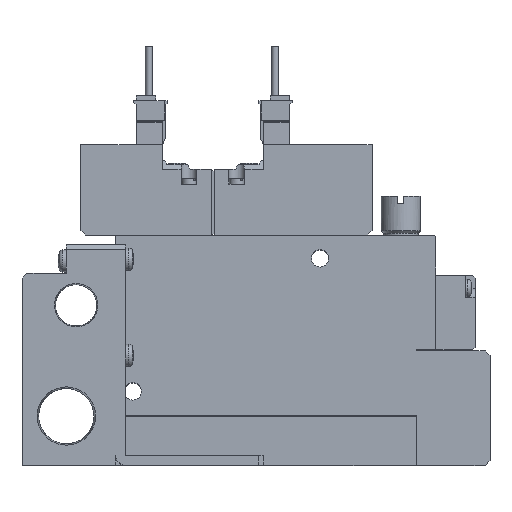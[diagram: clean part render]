
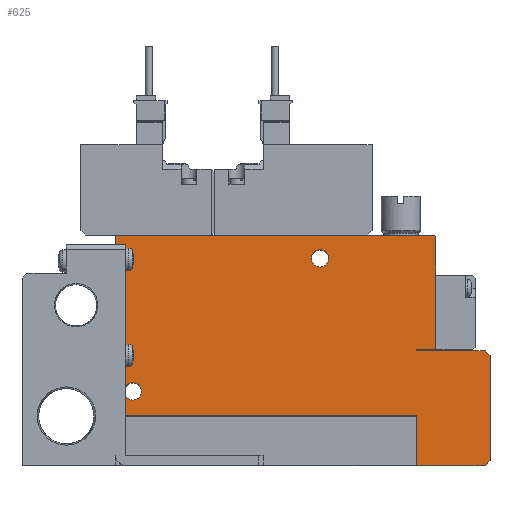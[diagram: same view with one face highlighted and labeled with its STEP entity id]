
A CAD part, top view. The second image highlights one B-rep face of the part: STEP entity #625.
In plain terms, the highlighted planar face has unit normal (0, 0, 1).
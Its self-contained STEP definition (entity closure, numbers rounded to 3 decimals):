
#625=ADVANCED_FACE('',(#1398,#1399,#1400),#1401,.F.);
#1398=FACE_OUTER_BOUND('',#2477,.T.);
#1399=FACE_BOUND('',#2478,.T.);
#1400=FACE_BOUND('',#2479,.T.);
#1401=PLANE('',#2480);
#2477=EDGE_LOOP('',(#5148,#5149,#5150,#5151,#5152,#5153,#5154,#5155,#5156,#5157,#5158,#5159,#5160,#5161));
#2478=EDGE_LOOP('',(#5162));
#2479=EDGE_LOOP('',(#5163));
#2480=AXIS2_PLACEMENT_3D('',#5164,#5165,#5166);
#5148=ORIENTED_EDGE('',*,*,#7374,.T.);
#5149=ORIENTED_EDGE('',*,*,#7375,.F.);
#5150=ORIENTED_EDGE('',*,*,#7376,.F.);
#5151=ORIENTED_EDGE('',*,*,#7377,.T.);
#5152=ORIENTED_EDGE('',*,*,#7378,.T.);
#5153=ORIENTED_EDGE('',*,*,#7379,.T.);
#5154=ORIENTED_EDGE('',*,*,#7380,.T.);
#5155=ORIENTED_EDGE('',*,*,#7381,.T.);
#5156=ORIENTED_EDGE('',*,*,#7382,.T.);
#5157=ORIENTED_EDGE('',*,*,#7383,.T.);
#5158=ORIENTED_EDGE('',*,*,#7384,.T.);
#5159=ORIENTED_EDGE('',*,*,#7385,.T.);
#5160=ORIENTED_EDGE('',*,*,#7386,.T.);
#5161=ORIENTED_EDGE('',*,*,#7387,.T.);
#5162=ORIENTED_EDGE('',*,*,#7388,.F.);
#5163=ORIENTED_EDGE('',*,*,#7389,.F.);
#5164=CARTESIAN_POINT('',(0.0,0.0,5.0));
#5165=DIRECTION('',(0.0,0.0,-1.0));
#5166=DIRECTION('',(0.0,-1.0,0.0));
#7374=EDGE_CURVE('',#8990,#8991,#8992,.T.);
#7375=EDGE_CURVE('',#8993,#8991,#8994,.T.);
#7376=EDGE_CURVE('',#8995,#8993,#8996,.T.);
#7377=EDGE_CURVE('',#8995,#8997,#8998,.T.);
#7378=EDGE_CURVE('',#8997,#8999,#9000,.T.);
#7379=EDGE_CURVE('',#8999,#9001,#9002,.T.);
#7380=EDGE_CURVE('',#9001,#9003,#9004,.T.);
#7381=EDGE_CURVE('',#9003,#9005,#9006,.T.);
#7382=EDGE_CURVE('',#9005,#9007,#9008,.T.);
#7383=EDGE_CURVE('',#9007,#9009,#9010,.T.);
#7384=EDGE_CURVE('',#9009,#9011,#9012,.T.);
#7385=EDGE_CURVE('',#9011,#9013,#9014,.T.);
#7386=EDGE_CURVE('',#9013,#9015,#9016,.T.);
#7387=EDGE_CURVE('',#9015,#8990,#9017,.T.);
#7388=EDGE_CURVE('',#9018,#9018,#9019,.T.);
#7389=EDGE_CURVE('',#9020,#9020,#9021,.T.);
#8990=VERTEX_POINT('',#11589);
#8991=VERTEX_POINT('',#11590);
#8992=LINE('',#11591,#11592);
#8993=VERTEX_POINT('',#11593);
#8994=LINE('',#11594,#11595);
#8995=VERTEX_POINT('',#11596);
#8996=LINE('',#11597,#11598);
#8997=VERTEX_POINT('',#11599);
#8998=LINE('',#11600,#11601);
#8999=VERTEX_POINT('',#11602);
#9000=LINE('',#11603,#11604);
#9001=VERTEX_POINT('',#11605);
#9002=LINE('',#11606,#11607);
#9003=VERTEX_POINT('',#11608);
#9004=LINE('',#11609,#11610);
#9005=VERTEX_POINT('',#11611);
#9006=LINE('',#11612,#11613);
#9007=VERTEX_POINT('',#11614);
#9008=LINE('',#11615,#11616);
#9009=VERTEX_POINT('',#11617);
#9010=LINE('',#11618,#11619);
#9011=VERTEX_POINT('',#11620);
#9012=LINE('',#11621,#11622);
#9013=VERTEX_POINT('',#11623);
#9014=LINE('',#11624,#11625);
#9015=VERTEX_POINT('',#11626);
#9016=LINE('',#11627,#11628);
#9017=LINE('',#11629,#11630);
#9018=VERTEX_POINT('',#11631);
#9019=CIRCLE('',#11632,1.75);
#9020=VERTEX_POINT('',#11633);
#9021=CIRCLE('',#11634,1.75);
#11589=CARTESIAN_POINT('',(0.0,46.4,5.0));
#11590=CARTESIAN_POINT('',(0.0,10.1,5.0));
#11591=CARTESIAN_POINT('',(0.0,46.4,5.0));
#11592=VECTOR('',#14131,1.0);
#11593=CARTESIAN_POINT('',(61.1,10.1,5.0));
#11594=CARTESIAN_POINT('',(61.1,10.1,5.0));
#11595=VECTOR('',#14132,1.0);
#11596=CARTESIAN_POINT('',(61.1,0.0,5.0));
#11597=CARTESIAN_POINT('',(61.1,0.0,5.0));
#11598=VECTOR('',#14133,1.0);
#11599=CARTESIAN_POINT('',(75.0,0.0,5.0));
#11600=CARTESIAN_POINT('',(0.0,0.0,5.0));
#11601=VECTOR('',#14134,1.0);
#11602=CARTESIAN_POINT('',(76.0,1.0,5.0));
#11603=CARTESIAN_POINT('',(75.0,0.0,5.0));
#11604=VECTOR('',#14135,1.0);
#11605=CARTESIAN_POINT('',(76.0,22.25,5.0));
#11606=CARTESIAN_POINT('',(76.0,1.0,5.0));
#11607=VECTOR('',#14136,1.0);
#11608=CARTESIAN_POINT('',(75.0,23.25,5.0));
#11609=CARTESIAN_POINT('',(76.0,22.25,5.0));
#11610=VECTOR('',#14137,1.0);
#11611=CARTESIAN_POINT('',(61.0,23.25,5.0));
#11612=CARTESIAN_POINT('',(75.0,23.25,5.0));
#11613=VECTOR('',#14138,1.0);
#11614=CARTESIAN_POINT('',(61.0,23.5,5.0));
#11615=CARTESIAN_POINT('',(61.0,23.25,5.0));
#11616=VECTOR('',#14139,1.0);
#11617=CARTESIAN_POINT('',(65.0,23.5,5.0));
#11618=CARTESIAN_POINT('',(61.0,23.5,5.0));
#11619=VECTOR('',#14140,1.0);
#11620=CARTESIAN_POINT('',(65.0,46.4,5.0));
#11621=CARTESIAN_POINT('',(65.0,23.5,5.0));
#11622=VECTOR('',#14141,1.0);
#11623=CARTESIAN_POINT('',(64.8,46.6,5.0));
#11624=CARTESIAN_POINT('',(65.0,46.4,5.0));
#11625=VECTOR('',#14142,1.0);
#11626=CARTESIAN_POINT('',(0.2,46.6,5.0));
#11627=CARTESIAN_POINT('',(64.8,46.6,5.0));
#11628=VECTOR('',#14143,1.0);
#11629=CARTESIAN_POINT('',(0.2,46.6,5.0));
#11630=VECTOR('',#14144,1.0);
#11631=CARTESIAN_POINT('',(5.25,15.0,5.0));
#11632=AXIS2_PLACEMENT_3D('',#14145,#14146,#14147);
#11633=CARTESIAN_POINT('',(43.25,42.0,5.0));
#11634=AXIS2_PLACEMENT_3D('',#14148,#14149,#14150);
#14131=DIRECTION('',(0.0,-1.0,0.0));
#14132=DIRECTION('',(-1.0,0.0,0.0));
#14133=DIRECTION('',(0.0,1.0,0.0));
#14134=DIRECTION('',(1.0,0.0,0.0));
#14135=DIRECTION('',(0.707,0.707,0.0));
#14136=DIRECTION('',(0.0,1.0,0.0));
#14137=DIRECTION('',(-0.707,0.707,0.0));
#14138=DIRECTION('',(-1.0,0.0,0.0));
#14139=DIRECTION('',(0.0,1.0,0.0));
#14140=DIRECTION('',(1.0,0.,0.0));
#14141=DIRECTION('',(0.0,1.0,0.0));
#14142=DIRECTION('',(-0.707,0.707,0.0));
#14143=DIRECTION('',(-1.0,0.0,0.0));
#14144=DIRECTION('',(-0.707,-0.707,0.0));
#14145=CARTESIAN_POINT('',(3.5,15.0,5.0));
#14146=DIRECTION('',(0.0,0.0,1.0));
#14147=DIRECTION('',(1.0,0.0,0.0));
#14148=CARTESIAN_POINT('',(41.5,42.0,5.0));
#14149=DIRECTION('',(0.0,0.0,1.0));
#14150=DIRECTION('',(1.0,0.0,0.0));
